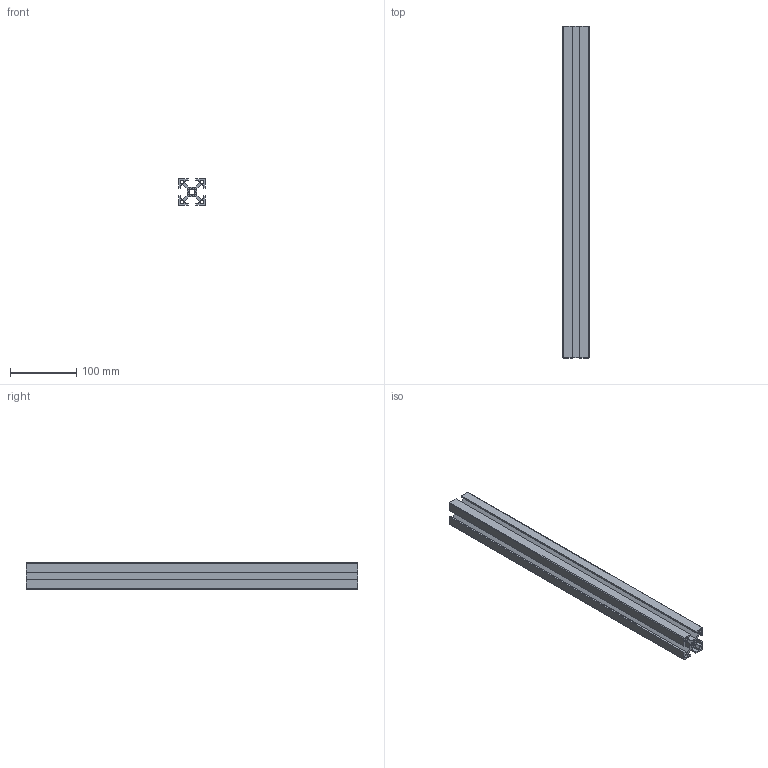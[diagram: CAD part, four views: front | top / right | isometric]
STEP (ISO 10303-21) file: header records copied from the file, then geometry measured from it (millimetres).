
FILE_DESCRIPTION (( 'STEP AP214' ), '1' );
FILE_NAME ('FBSB-40X40 .STEP', '2011-06-30T09:13:47', ( '.' ), ( '' ), 'SwSTEP 2.0', 'SolidWorks 2010', '' );
FILE_SCHEMA (( 'AUTOMOTIVE_DESIGN' ));
Length unit declared in the file: millimetre
Products named in the file (1): FBSB-40X40 
Bounding box: 40 x 500 x 40 mm (x, y, z)
Volume: 298117.3 mm3; surface area: 223761.7 mm2
Topology: 1 solids, 1 shells, 91 faces, 267 edges, 178 vertices
Faces by surface type: plane 62, cylinder 29
Entity records: 3073 total; most frequent: CARTESIAN_POINT 537, ORIENTED_EDGE 534, DIRECTION 509, EDGE_CURVE 267, LINE 209, VECTOR 209, VERTEX_POINT 178, AXIS2_PLACEMENT_3D 150
